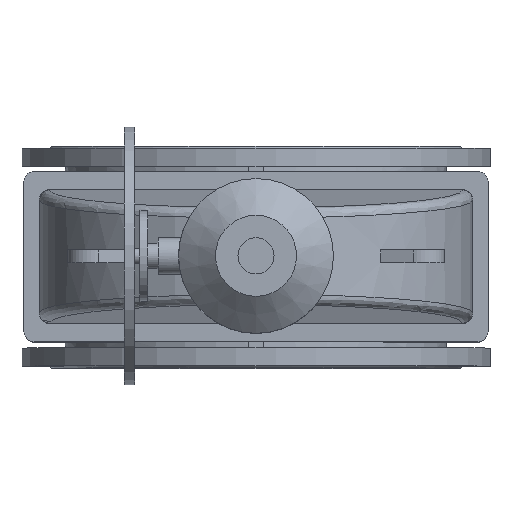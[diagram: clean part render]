
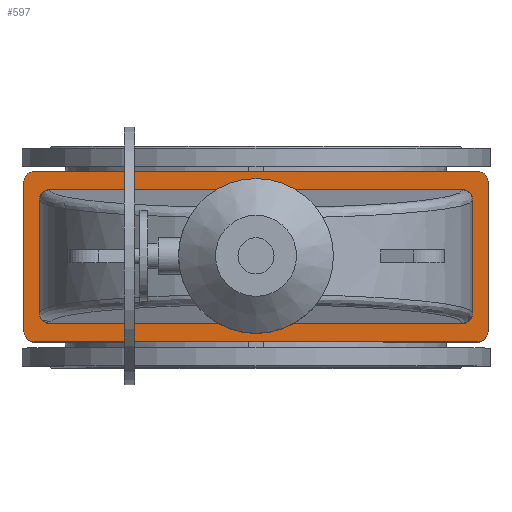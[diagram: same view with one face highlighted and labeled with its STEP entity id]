
A CAD part, top view. The second image highlights one B-rep face of the part: STEP entity #597.
In plain terms, the highlighted planar face has unit normal (0, 0, 1).
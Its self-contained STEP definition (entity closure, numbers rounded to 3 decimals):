
#597=ADVANCED_FACE('',(#4095,#4097),#4099,.T.);
#4095=FACE_BOUND('',#4096,.T.);
#4096=EDGE_LOOP('',(#8612,#8613,#8614,#8615,#8616,#8617,#8618,#8619));
#4097=FACE_BOUND('',#4098,.T.);
#4098=EDGE_LOOP('',(#8620,#8621,#8622,#8623,#8624,#8625,#8626,#8627));
#4099=PLANE('',#4100);
#4100=AXIS2_PLACEMENT_3D('',#4101,#4102,#4103);
#4101=CARTESIAN_POINT('',(0.,0.,816.));
#4102=DIRECTION('',(0.,-0.,1.));
#4103=DIRECTION('',(0.,1.,0.));
#8612=ORIENTED_EDGE('',*,*,#9934,.F.);
#8613=ORIENTED_EDGE('',*,*,#9935,.T.);
#8614=ORIENTED_EDGE('',*,*,#9936,.F.);
#8615=ORIENTED_EDGE('',*,*,#9937,.T.);
#8616=ORIENTED_EDGE('',*,*,#9938,.F.);
#8617=ORIENTED_EDGE('',*,*,#9939,.T.);
#8618=ORIENTED_EDGE('',*,*,#9940,.F.);
#8619=ORIENTED_EDGE('',*,*,#9941,.T.);
#8620=ORIENTED_EDGE('',*,*,#9932,.F.);
#8621=ORIENTED_EDGE('',*,*,#9931,.F.);
#8622=ORIENTED_EDGE('',*,*,#9933,.F.);
#8623=ORIENTED_EDGE('',*,*,#9906,.F.);
#8624=ORIENTED_EDGE('',*,*,#9942,.F.);
#8625=ORIENTED_EDGE('',*,*,#9943,.F.);
#8626=ORIENTED_EDGE('',*,*,#9944,.F.);
#8627=ORIENTED_EDGE('',*,*,#9899,.F.);
#9899=EDGE_CURVE('',#10654,#10656,#10657,.T.);
#9906=EDGE_CURVE('',#10666,#10664,#10668,.T.);
#9931=EDGE_CURVE('',#10707,#10705,#10709,.T.);
#9932=EDGE_CURVE('',#10705,#10654,#10710,.F.);
#9933=EDGE_CURVE('',#10664,#10707,#10711,.T.);
#9934=EDGE_CURVE('',#10712,#10713,#10714,.F.);
#9935=EDGE_CURVE('',#10712,#10715,#10716,.T.);
#9936=EDGE_CURVE('',#10717,#10715,#10718,.F.);
#9937=EDGE_CURVE('',#10717,#10719,#10720,.T.);
#9938=EDGE_CURVE('',#10721,#10719,#10722,.F.);
#9939=EDGE_CURVE('',#10721,#10723,#10724,.T.);
#9940=EDGE_CURVE('',#10725,#10723,#10726,.F.);
#9941=EDGE_CURVE('',#10725,#10713,#10727,.T.);
#9942=EDGE_CURVE('',#10728,#10666,#10729,.F.);
#9943=EDGE_CURVE('',#10730,#10728,#10731,.T.);
#9944=EDGE_CURVE('',#10656,#10730,#10732,.T.);
#10654=VERTEX_POINT('',#12204);
#10656=VERTEX_POINT('',#12208);
#10657=LINE('',#12209,#12210);
#10664=VERTEX_POINT('',#12229);
#10666=VERTEX_POINT('',#12233);
#10668=LINE('',#12237,#12238);
#10705=VERTEX_POINT('',#12330);
#10707=VERTEX_POINT('',#12334);
#10709=LINE('',#12338,#12339);
#10710=(BOUNDED_CURVE()B_SPLINE_CURVE(3,
(#12341,#12342,#12343,#12344),
.UNSPECIFIED.,.F.,.F.)B_SPLINE_CURVE_WITH_KNOTS((4,4),
(0.,1.),
.UNSPECIFIED.)CURVE()GEOMETRIC_REPRESENTATION_ITEM()RATIONAL_B_SPLINE_CURVE((1.,
0.805,0.805,1.))REPRESENTATION_ITEM(''));
#10711=(BOUNDED_CURVE()B_SPLINE_CURVE(3,
(#12345,#12346,#12347,#12348),
.UNSPECIFIED.,.F.,.F.)B_SPLINE_CURVE_WITH_KNOTS((4,4),
(0.,1.),
.UNSPECIFIED.)CURVE()GEOMETRIC_REPRESENTATION_ITEM()RATIONAL_B_SPLINE_CURVE((1.,
0.805,0.805,1.))REPRESENTATION_ITEM(''));
#10712=VERTEX_POINT('',#12349);
#10713=VERTEX_POINT('',#12350);
#10714=CIRCLE('',#12351,20.);
#10715=VERTEX_POINT('',#12355);
#10716=LINE('',#12356,#12357);
#10717=VERTEX_POINT('',#12359);
#10718=CIRCLE('',#12360,20.);
#10719=VERTEX_POINT('',#12364);
#10720=LINE('',#12365,#12366);
#10721=VERTEX_POINT('',#12368);
#10722=CIRCLE('',#12369,20.);
#10723=VERTEX_POINT('',#12373);
#10724=LINE('',#12374,#12375);
#10725=VERTEX_POINT('',#12377);
#10726=CIRCLE('',#12378,20.);
#10727=LINE('',#12382,#12383);
#10728=VERTEX_POINT('',#12385);
#10729=(BOUNDED_CURVE()B_SPLINE_CURVE(3,
(#12386,#12387,#12388,#12389),
.UNSPECIFIED.,.F.,.F.)B_SPLINE_CURVE_WITH_KNOTS((4,4),
(0.,1.),
.UNSPECIFIED.)CURVE()GEOMETRIC_REPRESENTATION_ITEM()RATIONAL_B_SPLINE_CURVE((1.,
0.805,0.805,1.))REPRESENTATION_ITEM(''));
#10730=VERTEX_POINT('',#12390);
#10731=LINE('',#12391,#12392);
#10732=(BOUNDED_CURVE()B_SPLINE_CURVE(3,
(#12394,#12395,#12396,#12397),
.UNSPECIFIED.,.F.,.F.)B_SPLINE_CURVE_WITH_KNOTS((4,4),
(0.,1.),
.UNSPECIFIED.)CURVE()GEOMETRIC_REPRESENTATION_ITEM()RATIONAL_B_SPLINE_CURVE((1.,
0.805,0.805,1.))REPRESENTATION_ITEM(''));
#12204=CARTESIAN_POINT('',(420.,-109.924,816.));
#12208=CARTESIAN_POINT('',(420.,109.924,816.));
#12209=CARTESIAN_POINT('',(420.,-109.924,816.));
#12210=VECTOR('',#12211,1.);
#12211=DIRECTION('',(0.,1.,0.));
#12229=CARTESIAN_POINT('',(-420.,-109.924,816.));
#12233=CARTESIAN_POINT('',(-420.,109.924,816.));
#12237=CARTESIAN_POINT('',(-420.,109.924,816.));
#12238=VECTOR('',#12239,1.);
#12239=DIRECTION('',(0.,-1.,0.));
#12330=CARTESIAN_POINT('',(400.,-130.,816.));
#12334=CARTESIAN_POINT('',(-400.,-130.,816.));
#12338=CARTESIAN_POINT('',(-400.,-130.,816.));
#12339=VECTOR('',#12340,1.);
#12340=DIRECTION('',(1.,0.,0.));
#12341=CARTESIAN_POINT('',(420.,-109.924,816.));
#12342=CARTESIAN_POINT('',(420.,-121.684,816.));
#12343=CARTESIAN_POINT('',(411.716,-130.,816.));
#12344=CARTESIAN_POINT('',(400.,-130.,816.));
#12345=CARTESIAN_POINT('',(-420.,-109.924,816.));
#12346=CARTESIAN_POINT('',(-420.,-121.684,816.));
#12347=CARTESIAN_POINT('',(-411.716,-130.,816.));
#12348=CARTESIAN_POINT('',(-400.,-130.,816.));
#12349=CARTESIAN_POINT('',(-430.,-165.,816.));
#12350=CARTESIAN_POINT('',(-450.,-145.,816.));
#12351=AXIS2_PLACEMENT_3D('',#12352,#12353,#12354);
#12352=CARTESIAN_POINT('',(-430.,-145.,816.));
#12353=DIRECTION('',(0.,-0.,1.));
#12354=DIRECTION('',(-1.,0.,0.));
#12355=CARTESIAN_POINT('',(430.,-165.,816.));
#12356=CARTESIAN_POINT('',(-430.,-165.,816.));
#12357=VECTOR('',#12358,1.);
#12358=DIRECTION('',(1.,0.,0.));
#12359=CARTESIAN_POINT('',(450.,-145.,816.));
#12360=AXIS2_PLACEMENT_3D('',#12361,#12362,#12363);
#12361=CARTESIAN_POINT('',(430.,-145.,816.));
#12362=DIRECTION('',(0.,-0.,1.));
#12363=DIRECTION('',(0.,-1.,0.));
#12364=CARTESIAN_POINT('',(450.,145.,816.));
#12365=CARTESIAN_POINT('',(450.,-145.,816.));
#12366=VECTOR('',#12367,1.);
#12367=DIRECTION('',(0.,1.,0.));
#12368=CARTESIAN_POINT('',(430.,165.,816.));
#12369=AXIS2_PLACEMENT_3D('',#12370,#12371,#12372);
#12370=CARTESIAN_POINT('',(430.,145.,816.));
#12371=DIRECTION('',(0.,-0.,1.));
#12372=DIRECTION('',(1.,0.,0.));
#12373=CARTESIAN_POINT('',(-430.,165.,816.));
#12374=CARTESIAN_POINT('',(430.,165.,816.));
#12375=VECTOR('',#12376,1.);
#12376=DIRECTION('',(-1.,0.,0.));
#12377=CARTESIAN_POINT('',(-450.,145.,816.));
#12378=AXIS2_PLACEMENT_3D('',#12379,#12380,#12381);
#12379=CARTESIAN_POINT('',(-430.,145.,816.));
#12380=DIRECTION('',(0.,-0.,1.));
#12381=DIRECTION('',(0.,1.,0.));
#12382=CARTESIAN_POINT('',(-450.,145.,816.));
#12383=VECTOR('',#12384,1.);
#12384=DIRECTION('',(0.,-1.,0.));
#12385=CARTESIAN_POINT('',(-400.,130.,816.));
#12386=CARTESIAN_POINT('',(-420.,109.924,816.));
#12387=CARTESIAN_POINT('',(-420.,121.684,816.));
#12388=CARTESIAN_POINT('',(-411.716,130.,816.));
#12389=CARTESIAN_POINT('',(-400.,130.,816.));
#12390=CARTESIAN_POINT('',(400.,130.,816.));
#12391=CARTESIAN_POINT('',(400.,130.,816.));
#12392=VECTOR('',#12393,1.);
#12393=DIRECTION('',(-1.,0.,0.));
#12394=CARTESIAN_POINT('',(420.,109.924,816.));
#12395=CARTESIAN_POINT('',(420.,121.684,816.));
#12396=CARTESIAN_POINT('',(411.716,130.,816.));
#12397=CARTESIAN_POINT('',(400.,130.,816.));
